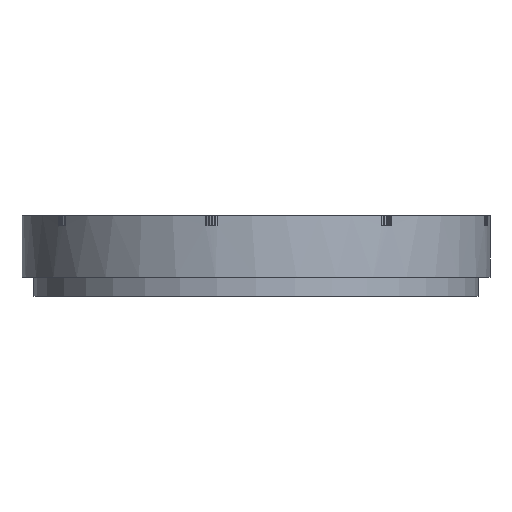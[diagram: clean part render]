
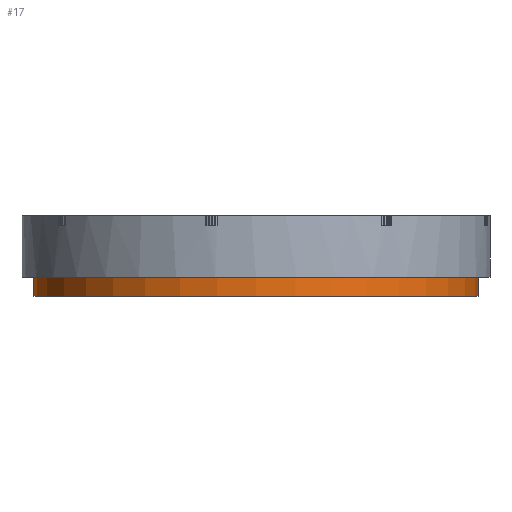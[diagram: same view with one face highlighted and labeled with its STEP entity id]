
A CAD part, front view. The second image highlights one B-rep face of the part: STEP entity #17.
In plain terms, the highlighted cylindrical face has radius 28.8 mm (diameter 57.6 mm), a full revolution.
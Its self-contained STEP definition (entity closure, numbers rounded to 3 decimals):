
#17 = ADVANCED_FACE('',(#18),#32,.T.);
#18 = FACE_BOUND('',#19,.F.);
#19 = EDGE_LOOP('',(#20,#50,#77,#78));
#20 = ORIENTED_EDGE('',*,*,#21,.T.);
#21 = EDGE_CURVE('',#22,#24,#26,.T.);
#22 = VERTEX_POINT('',#23);
#23 = CARTESIAN_POINT('',(28.8,0.,8.6));
#24 = VERTEX_POINT('',#25);
#25 = CARTESIAN_POINT('',(28.8,0.,6.1));
#26 = SEAM_CURVE('',#27,(#31,#43),.PCURVE_S1.);
#27 = LINE('',#28,#29);
#28 = CARTESIAN_POINT('',(28.8,0.,15.3));
#29 = VECTOR('',#30,1.);
#30 = DIRECTION('',(0.,0.,-1.));
#31 = PCURVE('',#32,#37);
#32 = CYLINDRICAL_SURFACE('',#33,28.8);
#33 = AXIS2_PLACEMENT_3D('',#34,#35,#36);
#34 = CARTESIAN_POINT('',(0.,0.,6.1));
#35 = DIRECTION('',(-0.,-0.,-1.));
#36 = DIRECTION('',(1.,0.,0.));
#37 = DEFINITIONAL_REPRESENTATION('',(#38),#42);
#38 = LINE('',#39,#40);
#39 = CARTESIAN_POINT('',(-6.283,-9.2));
#40 = VECTOR('',#41,1.);
#41 = DIRECTION('',(0.,1.));
#42 = ( GEOMETRIC_REPRESENTATION_CONTEXT(2) 
PARAMETRIC_REPRESENTATION_CONTEXT() REPRESENTATION_CONTEXT('2D SPACE',''
  ) );
#43 = PCURVE('',#32,#44);
#44 = DEFINITIONAL_REPRESENTATION('',(#45),#49);
#45 = LINE('',#46,#47);
#46 = CARTESIAN_POINT('',(-0.,-9.2));
#47 = VECTOR('',#48,1.);
#48 = DIRECTION('',(0.,1.));
#49 = ( GEOMETRIC_REPRESENTATION_CONTEXT(2) 
PARAMETRIC_REPRESENTATION_CONTEXT() REPRESENTATION_CONTEXT('2D SPACE',''
  ) );
#50 = ORIENTED_EDGE('',*,*,#51,.F.);
#51 = EDGE_CURVE('',#24,#24,#52,.T.);
#52 = SURFACE_CURVE('',#53,(#58,#65),.PCURVE_S1.);
#53 = CIRCLE('',#54,28.8);
#54 = AXIS2_PLACEMENT_3D('',#55,#56,#57);
#55 = CARTESIAN_POINT('',(0.,0.,6.1));
#56 = DIRECTION('',(0.,0.,1.));
#57 = DIRECTION('',(1.,0.,0.));
#58 = PCURVE('',#32,#59);
#59 = DEFINITIONAL_REPRESENTATION('',(#60),#64);
#60 = LINE('',#61,#62);
#61 = CARTESIAN_POINT('',(-0.,0.));
#62 = VECTOR('',#63,1.);
#63 = DIRECTION('',(-1.,0.));
#64 = ( GEOMETRIC_REPRESENTATION_CONTEXT(2) 
PARAMETRIC_REPRESENTATION_CONTEXT() REPRESENTATION_CONTEXT('2D SPACE',''
  ) );
#65 = PCURVE('',#66,#71);
#66 = PLANE('',#67);
#67 = AXIS2_PLACEMENT_3D('',#68,#69,#70);
#68 = CARTESIAN_POINT('',(0.,0.,6.1));
#69 = DIRECTION('',(0.,0.,1.));
#70 = DIRECTION('',(1.,0.,-0.));
#71 = DEFINITIONAL_REPRESENTATION('',(#72),#76);
#72 = CIRCLE('',#73,28.8);
#73 = AXIS2_PLACEMENT_2D('',#74,#75);
#74 = CARTESIAN_POINT('',(0.,0.));
#75 = DIRECTION('',(1.,0.));
#76 = ( GEOMETRIC_REPRESENTATION_CONTEXT(2) 
PARAMETRIC_REPRESENTATION_CONTEXT() REPRESENTATION_CONTEXT('2D SPACE',''
  ) );
#77 = ORIENTED_EDGE('',*,*,#21,.F.);
#78 = ORIENTED_EDGE('',*,*,#79,.F.);
#79 = EDGE_CURVE('',#22,#22,#80,.T.);
#80 = SURFACE_CURVE('',#81,(#86,#93),.PCURVE_S1.);
#81 = CIRCLE('',#82,28.8);
#82 = AXIS2_PLACEMENT_3D('',#83,#84,#85);
#83 = CARTESIAN_POINT('',(0.,0.,8.6));
#84 = DIRECTION('',(0.,0.,-1.));
#85 = DIRECTION('',(1.,0.,0.));
#86 = PCURVE('',#32,#87);
#87 = DEFINITIONAL_REPRESENTATION('',(#88),#92);
#88 = LINE('',#89,#90);
#89 = CARTESIAN_POINT('',(-6.283,-2.5));
#90 = VECTOR('',#91,1.);
#91 = DIRECTION('',(1.,-0.));
#92 = ( GEOMETRIC_REPRESENTATION_CONTEXT(2) 
PARAMETRIC_REPRESENTATION_CONTEXT() REPRESENTATION_CONTEXT('2D SPACE',''
  ) );
#93 = PCURVE('',#94,#99);
#94 = PLANE('',#95);
#95 = AXIS2_PLACEMENT_3D('',#96,#97,#98);
#96 = CARTESIAN_POINT('',(0.,0.,8.6));
#97 = DIRECTION('',(0.,0.,1.));
#98 = DIRECTION('',(1.,0.,-0.));
#99 = DEFINITIONAL_REPRESENTATION('',(#100),#108);
#100 = ( BOUNDED_CURVE() B_SPLINE_CURVE(2,(#101,#102,#103,#104,#105,#106
,#107),.UNSPECIFIED.,.T.,.F.) B_SPLINE_CURVE_WITH_KNOTS((1,2,2,2,2,1),(
    -2.094,0.,2.094,4.189,6.283,
8.378),.UNSPECIFIED.) CURVE() GEOMETRIC_REPRESENTATION_ITEM() 
RATIONAL_B_SPLINE_CURVE((1.,0.5,1.,0.5,1.,0.5,1.)) REPRESENTATION_ITEM(
  '') );
#101 = CARTESIAN_POINT('',(28.8,0.));
#102 = CARTESIAN_POINT('',(28.8,-49.883));
#103 = CARTESIAN_POINT('',(-14.4,-24.942));
#104 = CARTESIAN_POINT('',(-57.6,0.));
#105 = CARTESIAN_POINT('',(-14.4,24.942));
#106 = CARTESIAN_POINT('',(28.8,49.883));
#107 = CARTESIAN_POINT('',(28.8,0.));
#108 = ( GEOMETRIC_REPRESENTATION_CONTEXT(2) 
PARAMETRIC_REPRESENTATION_CONTEXT() REPRESENTATION_CONTEXT('2D SPACE',''
  ) );
